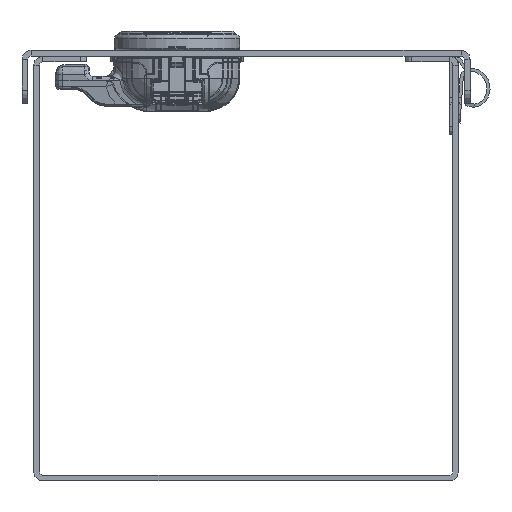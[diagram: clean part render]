
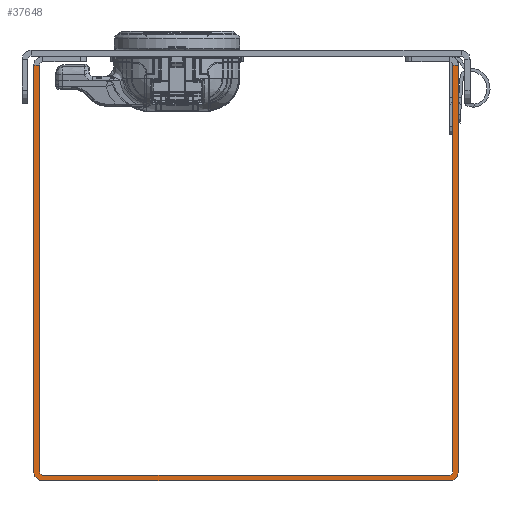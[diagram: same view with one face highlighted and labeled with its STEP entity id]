
A CAD part, front view. The second image highlights one B-rep face of the part: STEP entity #37648.
In plain terms, the highlighted planar face has unit normal (0, -1, 0).
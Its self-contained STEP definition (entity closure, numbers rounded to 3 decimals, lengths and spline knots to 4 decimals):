
#3027=FACE_OUTER_BOUND('',#5309,.T.);
#5309=EDGE_LOOP('',(#27450,#27451,#27452,#27453,#27454,#27455,#27456,#27457,
#27458,#27459,#27460,#27461));
#7532=LINE('',#53958,#10909);
#8279=LINE('',#56175,#11656);
#8286=LINE('',#56197,#11663);
#8293=LINE('',#56221,#11670);
#8295=LINE('',#56227,#11672);
#8296=LINE('',#56230,#11673);
#8297=LINE('',#56232,#11674);
#8298=LINE('',#56236,#11675);
#10909=VECTOR('',#43653,0.3937);
#11656=VECTOR('',#45874,0.3937);
#11663=VECTOR('',#45901,0.3937);
#11670=VECTOR('',#45926,0.3937);
#11672=VECTOR('',#45932,0.3937);
#11673=VECTOR('',#45935,0.3937);
#11674=VECTOR('',#45936,0.3937);
#11675=VECTOR('',#45939,0.3937);
#14377=CIRCLE('',#40480,0.031);
#14378=CIRCLE('',#40481,0.031);
#14379=CIRCLE('',#40482,0.086);
#14380=CIRCLE('',#40483,0.086);
#15703=VERTEX_POINT('',#53955);
#15704=VERTEX_POINT('',#53957);
#16437=VERTEX_POINT('',#56170);
#16440=VERTEX_POINT('',#56185);
#16442=VERTEX_POINT('',#56196);
#16450=VERTEX_POINT('',#56220);
#16451=VERTEX_POINT('',#56224);
#16452=VERTEX_POINT('',#56226);
#16453=VERTEX_POINT('',#56228);
#16454=VERTEX_POINT('',#56231);
#16455=VERTEX_POINT('',#56233);
#16456=VERTEX_POINT('',#56235);
#19420=EDGE_CURVE('',#15704,#15703,#7532,.T.);
#20532=EDGE_CURVE('',#16437,#15704,#8279,.T.);
#20542=EDGE_CURVE('',#16442,#16440,#8286,.T.);
#20554=EDGE_CURVE('',#16437,#16450,#8293,.T.);
#20556=EDGE_CURVE('',#16451,#15703,#14377,.T.);
#20557=EDGE_CURVE('',#16451,#16452,#8295,.T.);
#20558=EDGE_CURVE('',#16452,#16453,#14378,.T.);
#20559=EDGE_CURVE('',#16453,#16442,#8296,.T.);
#20560=EDGE_CURVE('',#16454,#16440,#8297,.T.);
#20561=EDGE_CURVE('',#16455,#16454,#14379,.T.);
#20562=EDGE_CURVE('',#16456,#16455,#8298,.T.);
#20563=EDGE_CURVE('',#16456,#16450,#14380,.T.);
#27450=ORIENTED_EDGE('',*,*,#20532,.T.);
#27451=ORIENTED_EDGE('',*,*,#19420,.T.);
#27452=ORIENTED_EDGE('',*,*,#20556,.F.);
#27453=ORIENTED_EDGE('',*,*,#20557,.T.);
#27454=ORIENTED_EDGE('',*,*,#20558,.T.);
#27455=ORIENTED_EDGE('',*,*,#20559,.T.);
#27456=ORIENTED_EDGE('',*,*,#20542,.T.);
#27457=ORIENTED_EDGE('',*,*,#20560,.F.);
#27458=ORIENTED_EDGE('',*,*,#20561,.F.);
#27459=ORIENTED_EDGE('',*,*,#20562,.F.);
#27460=ORIENTED_EDGE('',*,*,#20563,.T.);
#27461=ORIENTED_EDGE('',*,*,#20554,.F.);
#36503=PLANE('',#40479);
#37648=ADVANCED_FACE('',(#3027),#36503,.T.);
#40479=AXIS2_PLACEMENT_3D('',#56223,#45928,#45929);
#40480=AXIS2_PLACEMENT_3D('',#56225,#45930,#45931);
#40481=AXIS2_PLACEMENT_3D('',#56229,#45933,#45934);
#40482=AXIS2_PLACEMENT_3D('',#56234,#45937,#45938);
#40483=AXIS2_PLACEMENT_3D('',#56237,#45940,#45941);
#43653=DIRECTION('',(0.,0.,-1.));
#45874=DIRECTION('',(-1.,0.,0.));
#45901=DIRECTION('',(-1.,0.,0.));
#45926=DIRECTION('',(0.,0.,-1.));
#45928=DIRECTION('center_axis',(0.,-1.,0.));
#45929=DIRECTION('ref_axis',(0.,0.,-1.));
#45930=DIRECTION('center_axis',(0.,-1.,0.));
#45931=DIRECTION('ref_axis',(0.,0.,
-1.));
#45932=DIRECTION('',(-1.,0.,0.));
#45933=DIRECTION('center_axis',(0.,1.,0.));
#45934=DIRECTION('ref_axis',(0.,0.,
-1.));
#45935=DIRECTION('',(0.,0.,1.));
#45936=DIRECTION('',(0.,0.,1.));
#45937=DIRECTION('center_axis',(0.,1.,0.));
#45938=DIRECTION('ref_axis',(0.,0.,
-1.));
#45939=DIRECTION('',(-1.,0.,0.));
#45940=DIRECTION('center_axis',(0.,-1.,0.));
#45941=DIRECTION('ref_axis',(0.,0.,
-1.));
#53955=CARTESIAN_POINT('',(1.945,-60.,0.086));
#53957=CARTESIAN_POINT('',(1.945,-60.,3.914));
#53958=CARTESIAN_POINT('',(1.945,-60.,4.));
#56170=CARTESIAN_POINT('',(2.,-60.,3.914));
#56175=CARTESIAN_POINT('',(-0.0275,-60.,3.914));
#56185=CARTESIAN_POINT('',(-2.,-60.,3.914));
#56196=CARTESIAN_POINT('',(-1.945,-60.,3.914));
#56197=CARTESIAN_POINT('',(-1.9725,-60.,3.914));
#56220=CARTESIAN_POINT('',(2.,-60.,0.086));
#56221=CARTESIAN_POINT('',(2.,-60.,4.));
#56223=CARTESIAN_POINT('Origin',(-2.,-60.,0.));
#56224=CARTESIAN_POINT('',(1.914,-60.,0.055));
#56225=CARTESIAN_POINT('Origin',(1.914,-60.,0.086));
#56226=CARTESIAN_POINT('',(-1.914,-60.,0.055));
#56227=CARTESIAN_POINT('',(2.,-60.,0.055));
#56228=CARTESIAN_POINT('',(-1.945,-60.,0.086));
#56229=CARTESIAN_POINT('Origin',(-1.914,-60.,0.086));
#56230=CARTESIAN_POINT('',(-1.945,-60.,0.));
#56231=CARTESIAN_POINT('',(-2.,-60.,0.086));
#56232=CARTESIAN_POINT('',(-2.,-60.,0.));
#56233=CARTESIAN_POINT('',(-1.914,-60.,0.));
#56234=CARTESIAN_POINT('Origin',(-1.914,-60.,0.086));
#56235=CARTESIAN_POINT('',(1.914,-60.,0.));
#56236=CARTESIAN_POINT('',(2.,-60.,0.));
#56237=CARTESIAN_POINT('Origin',(1.914,-60.,0.086));
